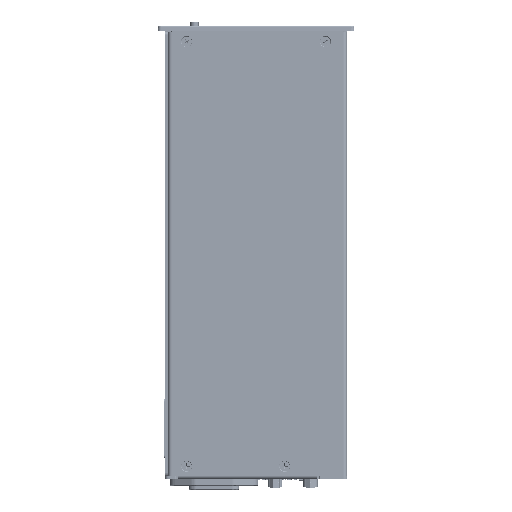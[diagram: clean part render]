
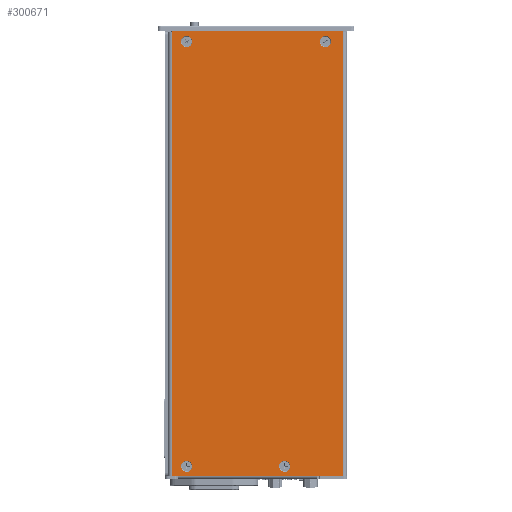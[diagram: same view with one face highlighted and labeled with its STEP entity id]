
A CAD part, front view. The second image highlights one B-rep face of the part: STEP entity #300671.
In plain terms, the highlighted planar face has unit normal (0, -1, 0).
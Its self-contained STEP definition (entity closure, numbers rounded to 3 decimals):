
#7230 = CARTESIAN_POINT ( 'NONE',  ( -45.45, -54.7, -240.5 ) ) ;
#7302 = ORIENTED_EDGE ( 'NONE', *, *, #370046, .T. ) ;
#8255 = CARTESIAN_POINT ( 'NONE',  ( 46.95, -54.7, 0. ) ) ;
#14809 = DIRECTION ( 'NONE',  ( -1., 0., 0. ) ) ;
#17268 = VERTEX_POINT ( 'NONE', #339683 ) ;
#19868 = VERTEX_POINT ( 'NONE', #137781 ) ;
#21885 = ORIENTED_EDGE ( 'NONE', *, *, #354640, .F. ) ;
#35198 = VERTEX_POINT ( 'NONE', #401831 ) ;
#40951 = DIRECTION ( 'NONE',  ( -1., 0., 0. ) ) ;
#41126 = AXIS2_PLACEMENT_3D ( 'NONE', #309963, #56993, #352437 ) ;
#45353 = EDGE_LOOP ( 'NONE', ( #342344, #394072 ) ) ;
#48892 = DIRECTION ( 'NONE',  ( -1., 0., 0. ) ) ;
#50062 = AXIS2_PLACEMENT_3D ( 'NONE', #125498, #420959, #167972 ) ;
#56993 = DIRECTION ( 'NONE',  ( 0., -1., 0. ) ) ;
#57167 = ORIENTED_EDGE ( 'NONE', *, *, #158133, .T. ) ;
#63472 = EDGE_CURVE ( 'NONE', #525809, #64611, #129750, .T. ) ;
#64511 = ORIENTED_EDGE ( 'NONE', *, *, #63472, .F. ) ;
#64611 = VERTEX_POINT ( 'NONE', #408130 ) ;
#69585 = VECTOR ( 'NONE', #132815, 1000. ) ;
#70631 = CARTESIAN_POINT ( 'NONE',  ( -45.45, -54.7, -0.15 ) ) ;
#88594 = VECTOR ( 'NONE', #335410, 1000. ) ;
#92122 = CARTESIAN_POINT ( 'NONE',  ( 37.5, -54.7, -5.5 ) ) ;
#96719 = EDGE_CURVE ( 'NONE', #235961, #473126, #216793, .T. ) ;
#98256 = VECTOR ( 'NONE', #461928, 1000. ) ;
#98697 = FACE_BOUND ( 'NONE', #45353, .T. ) ;
#98847 = EDGE_LOOP ( 'NONE', ( #528250, #302107 ) ) ;
#99740 = CIRCLE ( 'NONE', #320511, 3. ) ;
#102295 = CARTESIAN_POINT ( 'NONE',  ( 46.95, -54.7, -240.5 ) ) ;
#110044 = CIRCLE ( 'NONE', #452147, 3. ) ;
#112211 = EDGE_CURVE ( 'NONE', #35198, #214995, #141141, .T. ) ;
#116601 = DIRECTION ( 'NONE',  ( 0., -1., 0. ) ) ;
#122174 = DIRECTION ( 'NONE',  ( 0., 0., 1. ) ) ;
#124798 = EDGE_LOOP ( 'NONE', ( #362190, #520285 ) ) ;
#125498 = CARTESIAN_POINT ( 'NONE',  ( 15.5, -54.7, -235. ) ) ;
#129144 = VERTEX_POINT ( 'NONE', #289596 ) ;
#129595 = LINE ( 'NONE', #326002, #354301 ) ;
#129750 = LINE ( 'NONE', #332691, #354455 ) ;
#132815 = DIRECTION ( 'NONE',  ( 0., 0., 1. ) ) ;
#134659 = DIRECTION ( 'NONE',  ( -1., 0., 0. ) ) ;
#137781 = CARTESIAN_POINT ( 'NONE',  ( 34.5, -54.7, -5.5 ) ) ;
#139060 = EDGE_CURVE ( 'NONE', #473126, #235961, #171895, .T. ) ;
#141141 = CIRCLE ( 'NONE', #419077, 3. ) ;
#143777 = CARTESIAN_POINT ( 'NONE',  ( 46.95, -54.7, -240.5 ) ) ;
#154851 = VERTEX_POINT ( 'NONE', #229425 ) ;
#157320 = EDGE_CURVE ( 'NONE', #214995, #35198, #455851, .T. ) ;
#157846 = AXIS2_PLACEMENT_3D ( 'NONE', #102295, #227923, #397796 ) ;
#158133 = EDGE_CURVE ( 'NONE', #129144, #501364, #323028, .T. ) ;
#161907 = CARTESIAN_POINT ( 'NONE',  ( -45.45, -54.7, -240.5 ) ) ;
#167972 = DIRECTION ( 'NONE',  ( -1., 0., 0. ) ) ;
#168266 = ORIENTED_EDGE ( 'NONE', *, *, #453663, .F. ) ;
#170617 = VECTOR ( 'NONE', #201402, 1000. ) ;
#171895 = CIRCLE ( 'NONE', #41126, 3. ) ;
#180911 = CARTESIAN_POINT ( 'NONE',  ( -37.5, -54.7, -235. ) ) ;
#200014 = EDGE_CURVE ( 'NONE', #506652, #129144, #326542, .T. ) ;
#201402 = DIRECTION ( 'NONE',  ( 0., 0., 1. ) ) ;
#202193 = EDGE_CURVE ( 'NONE', #19868, #154851, #99740, .T. ) ;
#203598 = CARTESIAN_POINT ( 'NONE',  ( -45.45, -54.7, -240.35 ) ) ;
#207997 = LINE ( 'NONE', #527813, #307091 ) ;
#214995 = VERTEX_POINT ( 'NONE', #438364 ) ;
#216793 = CIRCLE ( 'NONE', #534520, 3. ) ;
#223361 = DIRECTION ( 'NONE',  ( -1., 0., 0. ) ) ;
#227923 = DIRECTION ( 'NONE',  ( 0., 1., 0. ) ) ;
#228954 = EDGE_CURVE ( 'NONE', #154851, #19868, #110044, .T. ) ;
#229425 = CARTESIAN_POINT ( 'NONE',  ( 40.5, -54.7, -5.5 ) ) ;
#232895 = CARTESIAN_POINT ( 'NONE',  ( 15.5, -54.7, -235. ) ) ;
#235961 = VERTEX_POINT ( 'NONE', #267433 ) ;
#241589 = ORIENTED_EDGE ( 'NONE', *, *, #264992, .F. ) ;
#250092 = CIRCLE ( 'NONE', #311041, 3. ) ;
#251345 = EDGE_LOOP ( 'NONE', ( #7302, #64511, #168266, #241589, #21885, #457359, #57167, #472456 ) ) ;
#255147 = CARTESIAN_POINT ( 'NONE',  ( 46.95, -54.7, -0.15 ) ) ;
#258688 = ORIENTED_EDGE ( 'NONE', *, *, #112211, .F. ) ;
#258813 = VERTEX_POINT ( 'NONE', #161907 ) ;
#264992 = EDGE_CURVE ( 'NONE', #258813, #418902, #505583, .T. ) ;
#267433 = CARTESIAN_POINT ( 'NONE',  ( -34.5, -54.7, -5.5 ) ) ;
#267705 = DIRECTION ( 'NONE',  ( 0., -1., 0. ) ) ;
#271351 = CIRCLE ( 'NONE', #435467, 3. ) ;
#274982 = DIRECTION ( 'NONE',  ( -1., 0., 0. ) ) ;
#275354 = DIRECTION ( 'NONE',  ( -1., 0., 0. ) ) ;
#279475 = CARTESIAN_POINT ( 'NONE',  ( -40.5, -54.7, -235. ) ) ;
#282821 = LINE ( 'NONE', #496717, #170617 ) ;
#289596 = CARTESIAN_POINT ( 'NONE',  ( 46.95, -54.7, -240.35 ) ) ;
#293893 = DIRECTION ( 'NONE',  ( 0., -1., 0. ) ) ;
#300671 = ADVANCED_FACE ( 'NONE', ( #534670, #98697, #435775, #349977, #310203 ), #353512, .F. ) ;
#302107 = ORIENTED_EDGE ( 'NONE', *, *, #96719, .F. ) ;
#307091 = VECTOR ( 'NONE', #274982, 1000. ) ;
#309963 = CARTESIAN_POINT ( 'NONE',  ( -37.5, -54.7, -5.5 ) ) ;
#310203 = FACE_OUTER_BOUND ( 'NONE', #251345, .T. ) ;
#311041 = AXIS2_PLACEMENT_3D ( 'NONE', #180911, #476245, #223361 ) ;
#316110 = VERTEX_POINT ( 'NONE', #279475 ) ;
#320511 = AXIS2_PLACEMENT_3D ( 'NONE', #92122, #387643, #134659 ) ;
#323028 = LINE ( 'NONE', #419632, #98256 ) ;
#326002 = CARTESIAN_POINT ( 'NONE',  ( 46.95, -54.7, -240.5 ) ) ;
#326542 = LINE ( 'NONE', #545736, #88594 ) ;
#332691 = CARTESIAN_POINT ( 'NONE',  ( -45.45, -54.7, -240.5 ) ) ;
#335410 = DIRECTION ( 'NONE',  ( 0., 0., 1. ) ) ;
#336950 = EDGE_CURVE ( 'NONE', #17268, #316110, #250092, .T. ) ;
#339683 = CARTESIAN_POINT ( 'NONE',  ( -34.5, -54.7, -235. ) ) ;
#342344 = ORIENTED_EDGE ( 'NONE', *, *, #202193, .F. ) ;
#349977 = FACE_BOUND ( 'NONE', #426117, .T. ) ;
#352437 = DIRECTION ( 'NONE',  ( -1., 0., 0. ) ) ;
#353512 = PLANE ( 'NONE',  #157846 ) ;
#354301 = VECTOR ( 'NONE', #363018, 1000. ) ;
#354455 = VECTOR ( 'NONE', #122174, 1000. ) ;
#354640 = EDGE_CURVE ( 'NONE', #506652, #258813, #207997, .T. ) ;
#358069 = EDGE_CURVE ( 'NONE', #316110, #17268, #271351, .T. ) ;
#362190 = ORIENTED_EDGE ( 'NONE', *, *, #358069, .F. ) ;
#363018 = DIRECTION ( 'NONE',  ( 0., 0., -1. ) ) ;
#369554 = CARTESIAN_POINT ( 'NONE',  ( 37.5, -54.7, -5.5 ) ) ;
#370046 = EDGE_CURVE ( 'NONE', #386510, #64611, #390147, .T. ) ;
#386510 = VERTEX_POINT ( 'NONE', #454446 ) ;
#387643 = DIRECTION ( 'NONE',  ( 0., -1., 0. ) ) ;
#390147 = LINE ( 'NONE', #8255, #475908 ) ;
#390722 = ORIENTED_EDGE ( 'NONE', *, *, #157320, .F. ) ;
#394072 = ORIENTED_EDGE ( 'NONE', *, *, #228954, .F. ) ;
#397796 = DIRECTION ( 'NONE',  ( 1., 0., 0. ) ) ;
#401831 = CARTESIAN_POINT ( 'NONE',  ( 18.5, -54.7, -235. ) ) ;
#408130 = CARTESIAN_POINT ( 'NONE',  ( -45.45, -54.7, 0. ) ) ;
#412015 = DIRECTION ( 'NONE',  ( -1., 0., 0. ) ) ;
#418902 = VERTEX_POINT ( 'NONE', #203598 ) ;
#419077 = AXIS2_PLACEMENT_3D ( 'NONE', #232895, #528183, #275354 ) ;
#419632 = CARTESIAN_POINT ( 'NONE',  ( 46.95, -54.7, -240.5 ) ) ;
#420959 = DIRECTION ( 'NONE',  ( 0., -1., 0. ) ) ;
#426117 = EDGE_LOOP ( 'NONE', ( #390722, #258688 ) ) ;
#435467 = AXIS2_PLACEMENT_3D ( 'NONE', #520533, #267705, #14809 ) ;
#435775 = FACE_BOUND ( 'NONE', #98847, .T. ) ;
#438364 = CARTESIAN_POINT ( 'NONE',  ( 12.5, -54.7, -235. ) ) ;
#452147 = AXIS2_PLACEMENT_3D ( 'NONE', #369554, #116601, #412015 ) ;
#453663 = EDGE_CURVE ( 'NONE', #418902, #525809, #282821, .T. ) ;
#454446 = CARTESIAN_POINT ( 'NONE',  ( 46.95, -54.7, 0. ) ) ;
#455851 = CIRCLE ( 'NONE', #50062, 3. ) ;
#457359 = ORIENTED_EDGE ( 'NONE', *, *, #200014, .T. ) ;
#461928 = DIRECTION ( 'NONE',  ( 0., 0., 1. ) ) ;
#472456 = ORIENTED_EDGE ( 'NONE', *, *, #524455, .F. ) ;
#473126 = VERTEX_POINT ( 'NONE', #509594 ) ;
#475908 = VECTOR ( 'NONE', #48892, 1000. ) ;
#476245 = DIRECTION ( 'NONE',  ( 0., -1., 0. ) ) ;
#496717 = CARTESIAN_POINT ( 'NONE',  ( -45.45, -54.7, -240.5 ) ) ;
#501364 = VERTEX_POINT ( 'NONE', #255147 ) ;
#505583 = LINE ( 'NONE', #7230, #69585 ) ;
#506652 = VERTEX_POINT ( 'NONE', #143777 ) ;
#509594 = CARTESIAN_POINT ( 'NONE',  ( -40.5, -54.7, -5.5 ) ) ;
#520285 = ORIENTED_EDGE ( 'NONE', *, *, #336950, .F. ) ;
#520533 = CARTESIAN_POINT ( 'NONE',  ( -37.5, -54.7, -235. ) ) ;
#524455 = EDGE_CURVE ( 'NONE', #386510, #501364, #129595, .T. ) ;
#525809 = VERTEX_POINT ( 'NONE', #70631 ) ;
#527813 = CARTESIAN_POINT ( 'NONE',  ( 46.95, -54.7, -240.5 ) ) ;
#528183 = DIRECTION ( 'NONE',  ( 0., -1., 0. ) ) ;
#528250 = ORIENTED_EDGE ( 'NONE', *, *, #139060, .F. ) ;
#534520 = AXIS2_PLACEMENT_3D ( 'NONE', #546706, #293893, #40951 ) ;
#534670 = FACE_BOUND ( 'NONE', #124798, .T. ) ;
#545736 = CARTESIAN_POINT ( 'NONE',  ( 46.95, -54.7, -240.5 ) ) ;
#546706 = CARTESIAN_POINT ( 'NONE',  ( -37.5, -54.7, -5.5 ) ) ;
